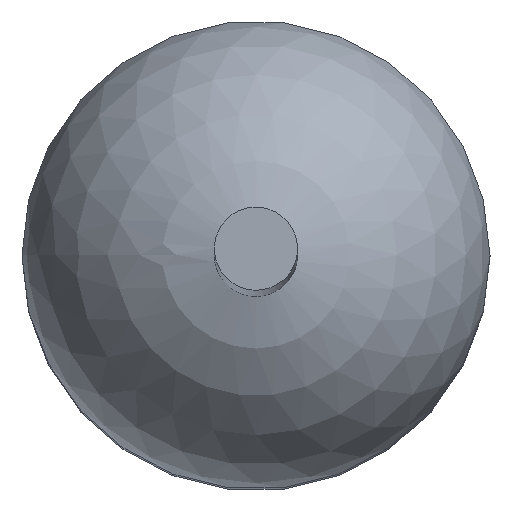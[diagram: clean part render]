
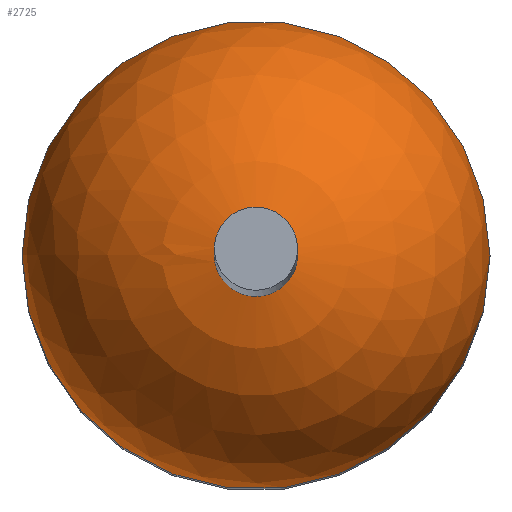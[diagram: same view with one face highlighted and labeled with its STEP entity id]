
A CAD part, top view. The second image highlights one B-rep face of the part: STEP entity #2725.
In plain terms, the highlighted spherical face has radius 2 mm.
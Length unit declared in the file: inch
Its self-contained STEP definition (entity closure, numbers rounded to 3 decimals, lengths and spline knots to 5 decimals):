
#14=SPHERICAL_SURFACE('',#2906,0.07874);
#297=FACE_OUTER_BOUND('',#445,.T.);
#445=EDGE_LOOP('',(#2551,#2552,#2553,#2554,#2555,#2556));
#981=CIRCLE('',#2766,0.07);
#982=CIRCLE('',#2767,0.07);
#1046=CIRCLE('',#2902,0.014);
#1047=CIRCLE('',#2903,0.014);
#1048=CIRCLE('',#2907,0.07874);
#1116=VERTEX_POINT('',#3912);
#1117=VERTEX_POINT('',#3914);
#1324=VERTEX_POINT('',#6191);
#1325=VERTEX_POINT('',#6193);
#1393=EDGE_CURVE('',#1116,#1117,#981,.T.);
#1394=EDGE_CURVE('',#1117,#1116,#982,.T.);
#1736=EDGE_CURVE('',#1325,#1324,#1046,.T.);
#1737=EDGE_CURVE('',#1324,#1325,#1047,.T.);
#1738=EDGE_CURVE('',#1325,#1117,#1048,.T.);
#2551=ORIENTED_EDGE('',*,*,#1737,.T.);
#2552=ORIENTED_EDGE('',*,*,#1738,.T.);
#2553=ORIENTED_EDGE('',*,*,#1393,.F.);
#2554=ORIENTED_EDGE('',*,*,#1394,.F.);
#2555=ORIENTED_EDGE('',*,*,#1738,.F.);
#2556=ORIENTED_EDGE('',*,*,#1736,.T.);
#2725=ADVANCED_FACE('',(#297),#14,.T.);
#2766=AXIS2_PLACEMENT_3D('',#3915,#2966,#2967);
#2767=AXIS2_PLACEMENT_3D('',#3916,#2968,#2969);
#2902=AXIS2_PLACEMENT_3D('',#6194,#3409,#3410);
#2903=AXIS2_PLACEMENT_3D('',#6195,#3411,#3412);
#2906=AXIS2_PLACEMENT_3D('',#6198,#3417,#3418);
#2907=AXIS2_PLACEMENT_3D('',#6199,#3419,#3420);
#2966=DIRECTION('center_axis',(0.,0.,-1.));
#2967=DIRECTION('ref_axis',(1.,0.,0.));
#2968=DIRECTION('center_axis',(0.,0.,-1.));
#2969=DIRECTION('ref_axis',(1.,0.,0.));
#3409=DIRECTION('center_axis',(0.,0.,-1.));
#3410=DIRECTION('ref_axis',(-1.,0.,0.));
#3411=DIRECTION('center_axis',(0.,0.,-1.));
#3412=DIRECTION('ref_axis',(-1.,0.,0.));
#3417=DIRECTION('center_axis',(0.,0.,1.));
#3418=DIRECTION('ref_axis',(1.,0.,0.));
#3419=DIRECTION('center_axis',(0.,-1.,0.));
#3420=DIRECTION('ref_axis',(-1.,0.,0.));
#3912=CARTESIAN_POINT('',(0.07,0.,0.12142));
#3914=CARTESIAN_POINT('',(-0.07,0.,0.12142));
#3915=CARTESIAN_POINT('Origin',(0.,0.,0.12142));
#3916=CARTESIAN_POINT('Origin',(0.,0.,0.12142));
#6191=CARTESIAN_POINT('',(0.014,0.,0.23497));
#6193=CARTESIAN_POINT('',(-0.014,0.,0.23497));
#6194=CARTESIAN_POINT('Origin',(0.,0.,0.23497));
#6195=CARTESIAN_POINT('Origin',(0.,0.,0.23497));
#6198=CARTESIAN_POINT('Origin',(0.,0.,0.15748));
#6199=CARTESIAN_POINT('Origin',(0.,0.,0.15748));
